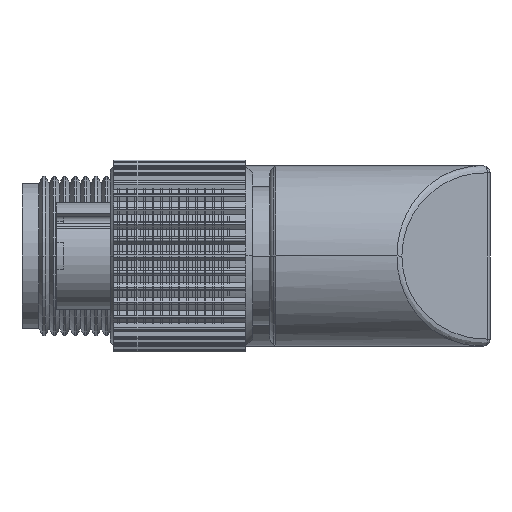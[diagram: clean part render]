
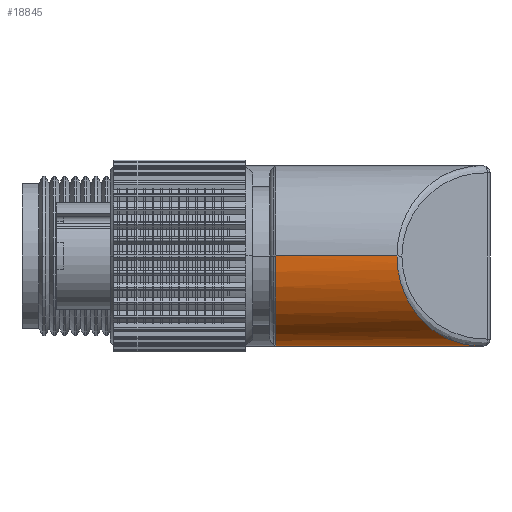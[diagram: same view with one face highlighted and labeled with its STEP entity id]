
A CAD part, front view. The second image highlights one B-rep face of the part: STEP entity #18845.
In plain terms, the highlighted cylindrical face has radius 6.604 mm (diameter 13.208 mm), a partial arc.
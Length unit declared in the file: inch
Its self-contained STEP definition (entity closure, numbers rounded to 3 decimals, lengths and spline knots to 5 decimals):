
#3265=CARTESIAN_POINT('',(0.76507,0.26,0.));
#3304=CARTESIAN_POINT('',(0.76507,0.26,0.));
#3305=CARTESIAN_POINT('',(0.76507,0.26,-0.00941));
#3306=CARTESIAN_POINT('',(0.76616,0.25897,
-0.02827));
#3307=CARTESIAN_POINT('',(0.77091,0.25444,
-0.05593));
#3308=CARTESIAN_POINT('',(0.77901,0.24674,
-0.08372));
#3309=CARTESIAN_POINT('',(0.79099,0.23541,
-0.11186));
#3310=CARTESIAN_POINT('',(0.80754,0.21986,
-0.14004));
#3311=CARTESIAN_POINT('',(0.82783,0.20103,
-0.16588));
#3312=CARTESIAN_POINT('',(0.85039,0.18048,
-0.18784));
#3313=CARTESIAN_POINT('',(0.87202,0.16135,
-0.2043));
#3314=CARTESIAN_POINT('',(0.89208,0.14429,
-0.21657));
#3315=CARTESIAN_POINT('',(0.91103,0.12905,
-0.22591));
#3316=CARTESIAN_POINT('',(0.929,0.11575,
-0.23295));
#3317=CARTESIAN_POINT('',(0.94623,0.10451,
-0.23815));
#3318=CARTESIAN_POINT('',(0.96242,0.0959,
-0.24171));
#3319=CARTESIAN_POINT('',(0.97762,0.0901,
-0.2439));
#3320=CARTESIAN_POINT('',(0.99218,0.08714,
-0.24496));
#3321=CARTESIAN_POINT('',(1.00641,0.08699,
-0.24502));
#3322=CARTESIAN_POINT('',(1.02133,0.08976,
-0.24403));
#3323=CARTESIAN_POINT('',(1.0373,0.09572,
-0.24179));
#3324=CARTESIAN_POINT('',(1.05459,0.10497,
-0.23796));
#3325=CARTESIAN_POINT('',(1.07243,0.11674,
-0.23246));
#3326=CARTESIAN_POINT('',(1.09119,0.13077,
-0.22494));
#3327=CARTESIAN_POINT('',(1.11102,0.14686,
-0.21488));
#3328=CARTESIAN_POINT('',(1.13233,0.16513,
-0.20133));
#3329=CARTESIAN_POINT('',(1.15483,0.18519,
-0.18329));
#3330=CARTESIAN_POINT('',(1.17761,0.20604,
-0.15968));
#3331=CARTESIAN_POINT('',(1.19703,0.22414,
-0.13303));
#3332=CARTESIAN_POINT('',(1.21222,0.23844,
-0.10519));
#3333=CARTESIAN_POINT('',(1.22335,0.24898,
-0.07681));
#3334=CARTESIAN_POINT('',(1.22816,0.25355,
-0.05828));
#3335=CARTESIAN_POINT('',(1.23,0.25531,-0.04918));
#3345=DIRECTION('',(-1.,0.,0.));
#3346=VECTOR('',#3345,0.13275);
#3347=CARTESIAN_POINT('',(0.76507,0.26,0.));
#3348=LINE('',#3347,#3346);
#3349=CARTESIAN_POINT('',(0.63232,0.,0.));
#3350=DIRECTION('',(-1.,0.,0.));
#3351=DIRECTION('',(0.,1.,0.));
#3352=AXIS2_PLACEMENT_3D('',#3349,#3350,#3351);
#3354=DIRECTION('',(1.,0.,0.));
#3355=VECTOR('',#3354,0.3494);
#3356=CARTESIAN_POINT('',(0.63232,-0.26,0.));
#3357=LINE('',#3356,#3355);
#3358=CARTESIAN_POINT('',(1.23,0.00897,
-0.25985));
#3359=CARTESIAN_POINT('',(1.20937,-0.01282,
-0.2606));
#3360=CARTESIAN_POINT('',(1.16867,-0.05772,
-0.2566));
#3361=CARTESIAN_POINT('',(1.10646,-0.12479,
-0.23215));
#3362=CARTESIAN_POINT('',(1.0516,-0.18431,
-0.18748));
#3363=CARTESIAN_POINT('',(1.0192,-0.21938,
-0.14226));
#3364=CARTESIAN_POINT('',(0.99922,-0.24104,
-0.10142));
#3365=CARTESIAN_POINT('',(0.98477,-0.25665,
-0.05156));
#3366=CARTESIAN_POINT('',(0.98179,-0.26,
-0.01734));
#3367=CARTESIAN_POINT('',(0.98172,-0.26,
0.));
#3403=CARTESIAN_POINT('',(1.23,0.,0.));
#3404=DIRECTION('',(-1.,0.,0.));
#3405=DIRECTION('',(0.,0.982,-0.189));
#3406=AXIS2_PLACEMENT_3D('',#3403,#3404,#3405);
#3437=CARTESIAN_POINT('',(0.98172,-0.26,
0.));
#12190=CARTESIAN_POINT('',(0.63232,-0.26,0.));
#12191=VERTEX_POINT('',#12190);
#12192=CARTESIAN_POINT('',(0.63232,0.26,0.));
#12193=VERTEX_POINT('',#12192);
#12194=VERTEX_POINT('',#3265);
#12198=VERTEX_POINT('',#3437);
#12205=VERTEX_POINT('',#3335);
#12206=VERTEX_POINT('',#3358);
#18830=CARTESIAN_POINT('',(0.62037,0.,0.));
#18831=DIRECTION('',(1.,0.,0.));
#18832=DIRECTION('',(0.,-1.,0.));
#18833=AXIS2_PLACEMENT_3D('',#18830,#18831,#18832);
#18834=CYLINDRICAL_SURFACE('',#18833,0.26);
#18835=ORIENTED_EDGE('',*,*,#18811,.F.);
#18836=ORIENTED_EDGE('',*,*,#18776,.T.);
#18837=ORIENTED_EDGE('',*,*,#18742,.T.);
#18838=ORIENTED_EDGE('',*,*,#18773,.T.);
#18840=ORIENTED_EDGE('',*,*,#18839,.F.);
#18842=ORIENTED_EDGE('',*,*,#18841,.F.);
#18843=EDGE_LOOP('',(#18835,#18836,#18837,#18838,#18840,#18842));
#18844=FACE_OUTER_BOUND('',#18843,.F.);
#18845=ADVANCED_FACE('',(#18844),#18834,.T.);
#3336=B_SPLINE_CURVE_WITH_KNOTS('',3,(#3304,#3305,#3306,#3307,#3308,#3309,#3310,
#3311,#3312,#3313,#3314,#3315,#3316,#3317,#3318,#3319,#3320,#3321,#3322,#3323,
#3324,#3325,#3326,#3327,#3328,#3329,#3330,#3331,#3332,#3333,#3334,#3335),
.UNSPECIFIED.,.F.,.F.,(4,1,1,1,1,1,1,1,1,1,1,1,1,1,1,1,1,1,1,1,1,1,1,1,1,1,1,1,
1,4),(0.,0.03448,0.06897,0.10345,
0.13793,0.17241,0.2069,0.24138,
0.27586,0.31034,0.34483,0.37931,
0.41379,0.44828,0.48276,0.51724,
0.55172,0.58621,0.62069,0.65517,
0.68966,0.72414,0.75862,0.7931,
0.82759,0.86207,0.89655,0.93103,
0.96552,1.),.UNSPECIFIED.);
#3353=CIRCLE('',#3352,0.26);
#3368=B_SPLINE_CURVE_WITH_KNOTS('',3,(#3358,#3359,#3360,#3361,#3362,#3363,#3364,
#3365,#3366,#3367),.UNSPECIFIED.,.F.,.F.,(4,1,1,1,1,1,1,4),(0.,
0.14286,0.28571,0.42857,0.57143,
0.71429,0.85714,1.),.UNSPECIFIED.);
#3407=CIRCLE('',#3406,0.26);
#18742=EDGE_CURVE('',#12193,#12191,#3353,.T.);
#18773=EDGE_CURVE('',#12191,#12198,#3357,.T.);
#18776=EDGE_CURVE('',#12194,#12193,#3348,.T.);
#18811=EDGE_CURVE('',#12194,#12205,#3336,.T.);
#18839=EDGE_CURVE('',#12206,#12198,#3368,.T.);
#18841=EDGE_CURVE('',#12205,#12206,#3407,.T.);
